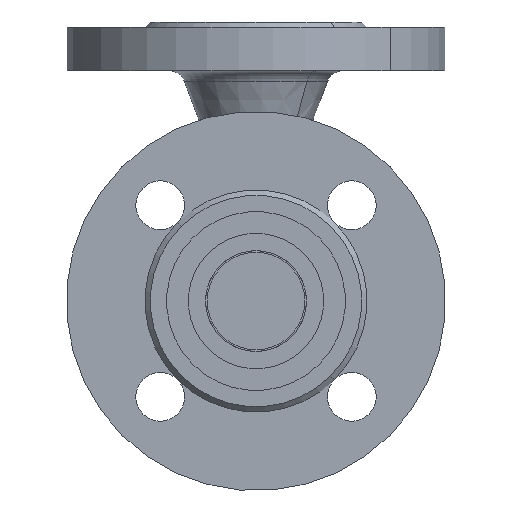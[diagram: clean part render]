
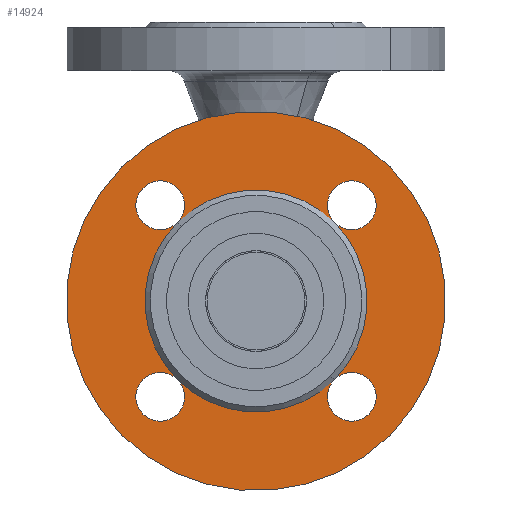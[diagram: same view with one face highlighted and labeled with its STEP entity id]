
A CAD part, front view. The second image highlights one B-rep face of the part: STEP entity #14924.
In plain terms, the highlighted planar face has unit normal (0, -1, 0).
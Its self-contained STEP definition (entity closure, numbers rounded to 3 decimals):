
#37 = EDGE_CURVE ( 'NONE', #16115, #15899, #9253, .T. ) ;
#386 = EDGE_CURVE ( 'NONE', #11294, #16115, #9517, .T. ) ;
#724 = ORIENTED_EDGE ( 'NONE', *, *, #386, .T. ) ;
#844 = VERTEX_POINT ( 'NONE', #9773 ) ;
#1208 = ORIENTED_EDGE ( 'NONE', *, *, #6395, .T. ) ;
#1695 = EDGE_LOOP ( 'NONE', ( #1208, #724, #16186, #9229, #9164, #9114, #9186, #9123, #3272, #2784, #10942, #10485, #9992, #13075 ) ) ;
#1880 = ORIENTED_EDGE ( 'NONE', *, *, #15537, .F. ) ;
#2370 = VERTEX_POINT ( 'NONE', #14592 ) ;
#2440 = EDGE_CURVE ( 'NONE', #13718, #14992, #14706, .T. ) ;
#2576 = EDGE_CURVE ( 'NONE', #2370, #5476, #15058, .T. ) ;
#2784 = ORIENTED_EDGE ( 'NONE', *, *, #2440, .T. ) ;
#3272 = ORIENTED_EDGE ( 'NONE', *, *, #9922, .T. ) ;
#4086 = EDGE_CURVE ( 'NONE', #14992, #844, #8313, .T. ) ;
#5476 = VERTEX_POINT ( 'NONE', #9951 ) ;
#6395 = EDGE_CURVE ( 'NONE', #13648, #11294, #11246, .T. ) ;
#7220 = CIRCLE ( 'NONE', #7221, 9. ) ;
#7221 = AXIS2_PLACEMENT_3D ( 'NONE', #7222, #7223, #7224 ) ;
#7222 = CARTESIAN_POINT ( 'NONE',  ( 50., 2., 0. ) ) ;
#7223 = DIRECTION ( 'NONE',  ( 0., 1., 0. ) ) ;
#7224 = DIRECTION ( 'NONE',  ( -1., 0., 0. ) ) ;
#7623 = CIRCLE ( 'NONE', #7624, 70. ) ;
#7624 = AXIS2_PLACEMENT_3D ( 'NONE', #7625, #7626, #7627 ) ;
#7625 = CARTESIAN_POINT ( 'NONE',  ( 0., 2., 0. ) ) ;
#7626 = DIRECTION ( 'NONE',  ( 0., 1., 0. ) ) ;
#7627 = DIRECTION ( 'NONE',  ( -1., 0., 0. ) ) ;
#7675 = CIRCLE ( 'NONE', #7676, 41. ) ;
#7676 = AXIS2_PLACEMENT_3D ( 'NONE', #7677, #7678, #7679 ) ;
#7677 = CARTESIAN_POINT ( 'NONE',  ( 0., 2., 0. ) ) ;
#7678 = DIRECTION ( 'NONE',  ( 0., 1., 0. ) ) ;
#7679 = DIRECTION ( 'NONE',  ( -1., 0., 0. ) ) ;
#7995 = CARTESIAN_POINT ( 'NONE',  ( 0., 2., -41. ) ) ;
#8301 = CARTESIAN_POINT ( 'NONE',  ( -9., 2., -50. ) ) ;
#8313 = CIRCLE ( 'NONE', #8314, 9. ) ;
#8314 = AXIS2_PLACEMENT_3D ( 'NONE', #8316, #8317, #8318 ) ;
#8316 = CARTESIAN_POINT ( 'NONE',  ( 0., 2., 50. ) ) ;
#8317 = DIRECTION ( 'NONE',  ( 0., 1., 0. ) ) ;
#8318 = DIRECTION ( 'NONE',  ( -1., 0., 0. ) ) ;
#8458 = CARTESIAN_POINT ( 'NONE',  ( 9., 2., -50. ) ) ;
#8559 = CIRCLE ( 'NONE', #8560, 41. ) ;
#8560 = AXIS2_PLACEMENT_3D ( 'NONE', #8561, #8562, #8563 ) ;
#8561 = CARTESIAN_POINT ( 'NONE',  ( 0., 2., 0. ) ) ;
#8562 = DIRECTION ( 'NONE',  ( 0., 1., 0. ) ) ;
#8563 = DIRECTION ( 'NONE',  ( -1., 0., 0. ) ) ;
#8564 = CIRCLE ( 'NONE', #8565, 41. ) ;
#8565 = AXIS2_PLACEMENT_3D ( 'NONE', #8566, #8567, #8568 ) ;
#8566 = CARTESIAN_POINT ( 'NONE',  ( 0., 2., 0. ) ) ;
#8567 = DIRECTION ( 'NONE',  ( 0., 1., 0. ) ) ;
#8568 = DIRECTION ( 'NONE',  ( -1., 0., 0. ) ) ;
#9114 = ORIENTED_EDGE ( 'NONE', *, *, #2576, .T. ) ;
#9123 = ORIENTED_EDGE ( 'NONE', *, *, #16203, .T. ) ;
#9158 = EDGE_CURVE ( 'NONE', #5476, #2370, #9761, .T. ) ;
#9164 = ORIENTED_EDGE ( 'NONE', *, *, #15554, .T. ) ;
#9168 = VERTEX_POINT ( 'NONE', #9917 ) ;
#9185 = VERTEX_POINT ( 'NONE', #10113 ) ;
#9186 = ORIENTED_EDGE ( 'NONE', *, *, #9158, .T. ) ;
#9202 = EDGE_CURVE ( 'NONE', #9185, #9168, #10527, .T. ) ;
#9204 = EDGE_CURVE ( 'NONE', #15899, #11294, #10541, .T. ) ;
#9229 = ORIENTED_EDGE ( 'NONE', *, *, #9204, .T. ) ;
#9253 = CIRCLE ( 'NONE', #9254, 9. ) ;
#9254 = AXIS2_PLACEMENT_3D ( 'NONE', #9255, #9256, #9257 ) ;
#9255 = CARTESIAN_POINT ( 'NONE',  ( 0., 2., -50. ) ) ;
#9256 = DIRECTION ( 'NONE',  ( 0., 1., 0. ) ) ;
#9257 = DIRECTION ( 'NONE',  ( -1., 0., 0. ) ) ;
#9517 = CIRCLE ( 'NONE', #9518, 9. ) ;
#9518 = AXIS2_PLACEMENT_3D ( 'NONE', #9519, #9520, #9521 ) ;
#9519 = CARTESIAN_POINT ( 'NONE',  ( 0., 2., -50. ) ) ;
#9520 = DIRECTION ( 'NONE',  ( 0., 1., 0. ) ) ;
#9521 = DIRECTION ( 'NONE',  ( -1., 0., 0. ) ) ;
#9761 = CIRCLE ( 'NONE', #9762, 9. ) ;
#9762 = AXIS2_PLACEMENT_3D ( 'NONE', #9763, #9764, #9765 ) ;
#9763 = CARTESIAN_POINT ( 'NONE',  ( -50., 2., 0. ) ) ;
#9764 = DIRECTION ( 'NONE',  ( 0., 1., 0. ) ) ;
#9765 = DIRECTION ( 'NONE',  ( -1., 0., 0. ) ) ;
#9773 = CARTESIAN_POINT ( 'NONE',  ( 0., 2., 41. ) ) ;
#9917 = CARTESIAN_POINT ( 'NONE',  ( 70., 2., 0. ) ) ;
#9922 = EDGE_CURVE ( 'NONE', #844, #13718, #14789, .T. ) ;
#9951 = CARTESIAN_POINT ( 'NONE',  ( -59., 2., 0. ) ) ;
#9992 = ORIENTED_EDGE ( 'NONE', *, *, #13558, .T. ) ;
#10113 = CARTESIAN_POINT ( 'NONE',  ( -70., 2., 0. ) ) ;
#10485 = ORIENTED_EDGE ( 'NONE', *, *, #11709, .T. ) ;
#10527 = CIRCLE ( 'NONE', #10528, 70. ) ;
#10528 = AXIS2_PLACEMENT_3D ( 'NONE', #10529, #10530, #10531 ) ;
#10529 = CARTESIAN_POINT ( 'NONE',  ( 0., 2., 0. ) ) ;
#10530 = DIRECTION ( 'NONE',  ( 0., 1., 0. ) ) ;
#10531 = DIRECTION ( 'NONE',  ( -1., 0., 0. ) ) ;
#10541 = CIRCLE ( 'NONE', #10542, 9. ) ;
#10542 = AXIS2_PLACEMENT_3D ( 'NONE', #10543, #10544, #10545 ) ;
#10543 = CARTESIAN_POINT ( 'NONE',  ( 0., 2., -50. ) ) ;
#10544 = DIRECTION ( 'NONE',  ( 0., 1., 0. ) ) ;
#10545 = DIRECTION ( 'NONE',  ( -1., 0., 0. ) ) ;
#10628 = VERTEX_POINT ( 'NONE', #15851 ) ;
#10831 = EDGE_CURVE ( 'NONE', #10628, #13648, #7220, .T. ) ;
#10881 = CIRCLE ( 'NONE', #10882, 9. ) ;
#10882 = AXIS2_PLACEMENT_3D ( 'NONE', #10883, #10884, #10888 ) ;
#10883 = CARTESIAN_POINT ( 'NONE',  ( 50., 2., 0. ) ) ;
#10884 = DIRECTION ( 'NONE',  ( 0., 1., 0. ) ) ;
#10888 = DIRECTION ( 'NONE',  ( -1., 0., 0. ) ) ;
#10942 = ORIENTED_EDGE ( 'NONE', *, *, #4086, .T. ) ;
#11119 = CARTESIAN_POINT ( 'NONE',  ( 41., 2., 0. ) ) ;
#11138 = CARTESIAN_POINT ( 'NONE',  ( -9., 2., 50. ) ) ;
#11246 = CIRCLE ( 'NONE', #11247, 41. ) ;
#11247 = AXIS2_PLACEMENT_3D ( 'NONE', #11248, #11249, #11250 ) ;
#11248 = CARTESIAN_POINT ( 'NONE',  ( 0., 2., 0. ) ) ;
#11249 = DIRECTION ( 'NONE',  ( 0., 1., 0. ) ) ;
#11250 = DIRECTION ( 'NONE',  ( -1., 0., 0. ) ) ;
#11294 = VERTEX_POINT ( 'NONE', #7995 ) ;
#11709 = EDGE_CURVE ( 'NONE', #844, #13648, #8559, .T. ) ;
#13075 = ORIENTED_EDGE ( 'NONE', *, *, #10831, .T. ) ;
#13558 = EDGE_CURVE ( 'NONE', #13648, #10628, #10881, .T. ) ;
#13648 = VERTEX_POINT ( 'NONE', #11119 ) ;
#13718 = VERTEX_POINT ( 'NONE', #11138 ) ;
#14278 = ORIENTED_EDGE ( 'NONE', *, *, #9202, .F. ) ;
#14592 = CARTESIAN_POINT ( 'NONE',  ( -41., 2., 0. ) ) ;
#14706 = CIRCLE ( 'NONE', #14707, 9. ) ;
#14707 = AXIS2_PLACEMENT_3D ( 'NONE', #14708, #14709, #14710 ) ;
#14708 = CARTESIAN_POINT ( 'NONE',  ( 0., 2., 50. ) ) ;
#14709 = DIRECTION ( 'NONE',  ( 0., 1., 0. ) ) ;
#14710 = DIRECTION ( 'NONE',  ( -1., 0., 0. ) ) ;
#14766 = EDGE_LOOP ( 'NONE', ( #14278, #1880 ) ) ;
#14789 = CIRCLE ( 'NONE', #14790, 9. ) ;
#14790 = AXIS2_PLACEMENT_3D ( 'NONE', #14791, #14792, #14793 ) ;
#14791 = CARTESIAN_POINT ( 'NONE',  ( 0., 2., 50. ) ) ;
#14792 = DIRECTION ( 'NONE',  ( 0., 1., 0. ) ) ;
#14793 = DIRECTION ( 'NONE',  ( -1., 0., 0. ) ) ;
#14924 = ADVANCED_FACE ( 'NONE', ( #15703, #15704 ), #15705, .F. ) ;
#14992 = VERTEX_POINT ( 'NONE', #15744 ) ;
#15058 = CIRCLE ( 'NONE', #15059, 9. ) ;
#15059 = AXIS2_PLACEMENT_3D ( 'NONE', #15060, #15061, #15062 ) ;
#15060 = CARTESIAN_POINT ( 'NONE',  ( -50., 2., 0. ) ) ;
#15061 = DIRECTION ( 'NONE',  ( 0., 1., 0. ) ) ;
#15062 = DIRECTION ( 'NONE',  ( -1., 0., 0. ) ) ;
#15537 = EDGE_CURVE ( 'NONE', #9168, #9185, #7623, .T. ) ;
#15554 = EDGE_CURVE ( 'NONE', #11294, #2370, #7675, .T. ) ;
#15703 = FACE_OUTER_BOUND ( 'NONE', #14766, .T. ) ;
#15704 = FACE_BOUND ( 'NONE', #1695, .T. ) ;
#15705 = PLANE ( 'NONE',  #15706 ) ;
#15706 = AXIS2_PLACEMENT_3D ( 'NONE', #15707, #15708, #15709 ) ;
#15707 = CARTESIAN_POINT ( 'NONE',  ( 41., 2., 0. ) ) ;
#15708 = DIRECTION ( 'NONE',  ( 0., 1., 0. ) ) ;
#15709 = DIRECTION ( 'NONE',  ( -1., 0., 0. ) ) ;
#15744 = CARTESIAN_POINT ( 'NONE',  ( 9., 2., 50. ) ) ;
#15851 = CARTESIAN_POINT ( 'NONE',  ( 59., 2., 0. ) ) ;
#15899 = VERTEX_POINT ( 'NONE', #8301 ) ;
#16115 = VERTEX_POINT ( 'NONE', #8458 ) ;
#16186 = ORIENTED_EDGE ( 'NONE', *, *, #37, .T. ) ;
#16203 = EDGE_CURVE ( 'NONE', #2370, #844, #8564, .T. ) ;
